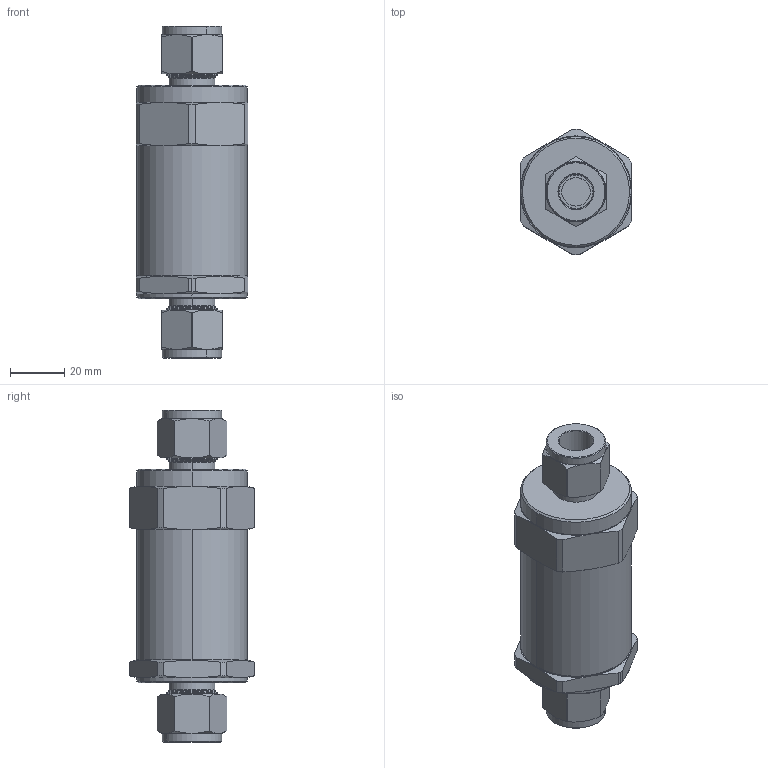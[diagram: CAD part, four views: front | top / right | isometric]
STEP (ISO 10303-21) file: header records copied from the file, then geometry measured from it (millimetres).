
FILE_DESCRIPTION (( 'STEP AP203' ), '1' );
FILE_NAME ('APRV-8T-FS-20.STEP', '2014-11-05T14:43:29', ( '' ), ( '' ), 'SwSTEP 2.0', 'SolidWorks 2011', '' );
FILE_SCHEMA (( 'CONFIG_CONTROL_DESIGN' ));
Length unit declared in the file: inch
Products named in the file (2): APRV-8T-FS-20; Part1^APRV-8T-FS-20-CM
Assembly tree (1 placements, depth 2):
  APRV-8T-FS-20
    Part1^APRV-8T-FS-20-CM
Bounding box: 41.27 x 46.35 x 122.48 mm (x, y, z)
Volume: 115676.7 mm3; surface area: 19730.3 mm2
Topology: 1 solids, 1 shells, 193 faces, 454 edges, 277 vertices
Faces by surface type: cone 88, cylinder 59, plane 40, torus 6
Entity records: 5915 total; most frequent: CARTESIAN_POINT 1312, DIRECTION 963, ORIENTED_EDGE 908, EDGE_CURVE 454, AXIS2_PLACEMENT_3D 408, VERTEX_POINT 277, CIRCLE 211, EDGE_LOOP 207
